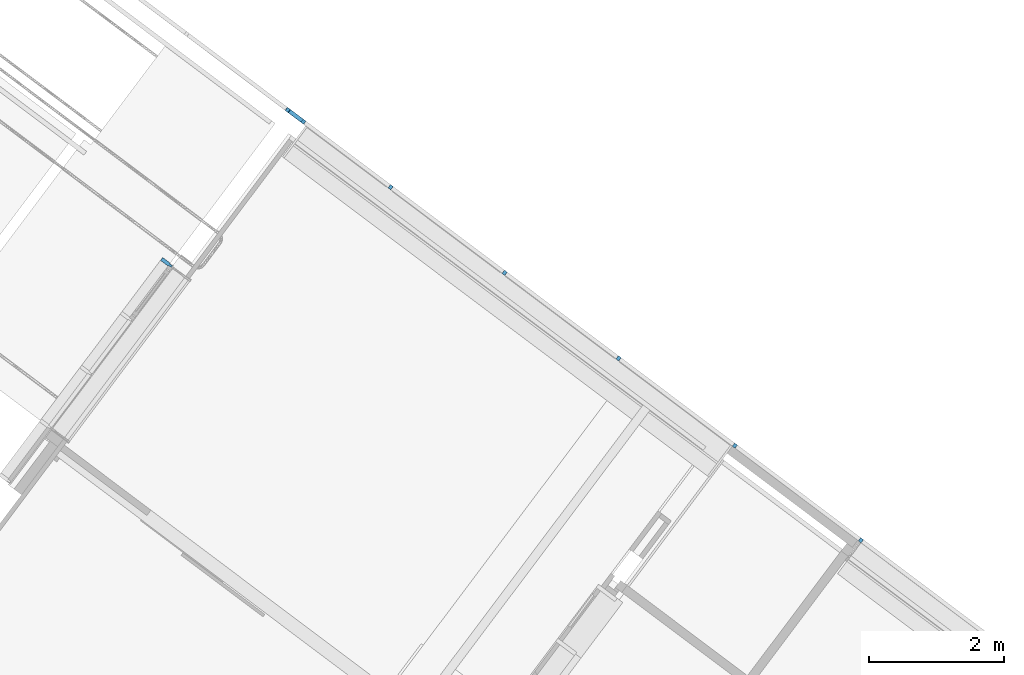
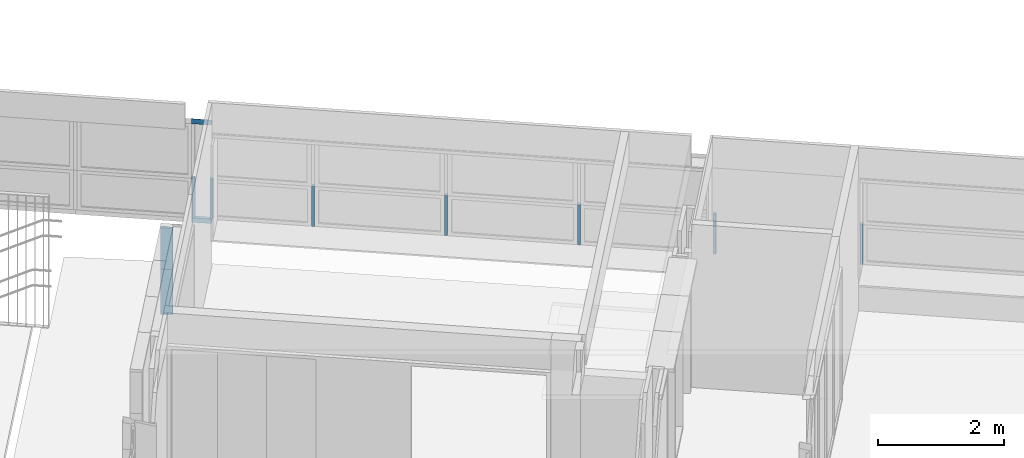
# One storey, part 90 of 243: 12 members, 3 elements without a shape of their own.
"""IFC2X3 building model written with IfcOpenShell, lengths in metres."""

from ifc_helpers import new_model, entity, si_unit, converted_unit, derived_unit, direction, frame, frame_2d, origin, origin_2d_with_axis, place, context, subcontext, project, spatial, polyline, rectangle, outline, extrude, source, transform, mapped, material, type_object, type_shapes, element, aggregate, save


model = new_model("IFC2X3")

# Units and contexts
model_context = context("Model", 3, precision=1e-05, world=origin(), true_north=direction((6.123031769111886e-17, 1.0)))
body_context = subcontext(model_context, "Body", "Model", "MODEL_VIEW")
ifc_project = project(units=[si_unit("LENGTHUNIT", "METRE"), si_unit("AREAUNIT", "SQUARE_METRE"), si_unit("VOLUMEUNIT", "CUBIC_METRE"), converted_unit("PLANEANGLEUNIT", "DEGREE", entity("IfcRatioMeasure", 0.017453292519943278), si_unit("PLANEANGLEUNIT", "RADIAN"), dimensions=[0, 0, 0, 0, 0, 0, 0]), si_unit("MASSUNIT", "GRAM", prefix="KILO"), derived_unit("MASSDENSITYUNIT", [(si_unit("MASSUNIT", "GRAM", prefix="KILO"), 1), (si_unit("LENGTHUNIT", "METRE"), -3)]), derived_unit("IONCONCENTRATIONUNIT", [(si_unit("MASSUNIT", "GRAM", prefix="KILO"), 1), (si_unit("LENGTHUNIT", "METRE"), -3)]), derived_unit("MOMENTOFINERTIAUNIT", [(si_unit("LENGTHUNIT", "METRE"), 4)]), si_unit("TIMEUNIT", "SECOND"), si_unit("FREQUENCYUNIT", "HERTZ"), si_unit("THERMODYNAMICTEMPERATUREUNIT", "DEGREE_CELSIUS"), derived_unit("THERMALTRANSMITTANCEUNIT", [(si_unit("MASSUNIT", "GRAM", prefix="KILO"), 1), (si_unit("THERMODYNAMICTEMPERATUREUNIT", "KELVIN"), -1), (si_unit("TIMEUNIT", "SECOND"), -3)]), derived_unit("THERMALCONDUCTANCEUNIT", [(si_unit("MASSUNIT", "GRAM", prefix="KILO"), 1), (si_unit("THERMODYNAMICTEMPERATUREUNIT", "KELVIN"), -1), (si_unit("TIMEUNIT", "SECOND"), -3), (si_unit("LENGTHUNIT", "METRE"), 1)]), derived_unit("VOLUMETRICFLOWRATEUNIT", [(si_unit("LENGTHUNIT", "METRE"), 3), (si_unit("TIMEUNIT", "SECOND"), -1)]), derived_unit("MASSFLOWRATEUNIT", [(si_unit("MASSUNIT", "GRAM", prefix="KILO"), 1), (si_unit("TIMEUNIT", "SECOND"), -1)]), derived_unit("ROTATIONALFREQUENCYUNIT", [(si_unit("TIMEUNIT", "SECOND"), -1)]), si_unit("ELECTRICCURRENTUNIT", "AMPERE"), si_unit("ELECTRICVOLTAGEUNIT", "VOLT"), si_unit("POWERUNIT", "WATT"), si_unit("FORCEUNIT", "NEWTON", prefix="KILO"), si_unit("ILLUMINANCEUNIT", "LUX"), si_unit("LUMINOUSFLUXUNIT", "LUMEN"), si_unit("LUMINOUSINTENSITYUNIT", "CANDELA"), derived_unit("USERDEFINED", [(si_unit("MASSUNIT", "GRAM", prefix="KILO"), -1), (si_unit("LENGTHUNIT", "METRE"), -2), (si_unit("TIMEUNIT", "SECOND"), 3), (si_unit("LUMINOUSFLUXUNIT", "LUMEN"), 1)]), derived_unit("USERDEFINED", [(si_unit("MASSUNIT", "GRAM", prefix="KILO"), 1), (si_unit("TIMEUNIT", "SECOND"), -3), (si_unit("LENGTHUNIT", "METRE"), 3), (si_unit("ELECTRICCURRENTUNIT", "AMPERE"), -2)]), derived_unit("SOUNDPOWERUNIT", [(si_unit("MASSUNIT", "GRAM", prefix="KILO"), 1), (si_unit("TIMEUNIT", "SECOND"), -3), (si_unit("LENGTHUNIT", "METRE"), 2)]), derived_unit("SOUNDPRESSUREUNIT", [(si_unit("MASSUNIT", "GRAM", prefix="KILO"), 1), (si_unit("LENGTHUNIT", "METRE"), -1), (si_unit("TIMEUNIT", "SECOND"), -2)]), derived_unit("LINEARVELOCITYUNIT", [(si_unit("LENGTHUNIT", "METRE"), 1), (si_unit("TIMEUNIT", "SECOND"), -1)]), si_unit("PRESSUREUNIT", "PASCAL"), derived_unit("USERDEFINED", [(si_unit("MASSUNIT", "GRAM", prefix="KILO"), 1), (si_unit("LENGTHUNIT", "METRE"), -2), (si_unit("TIMEUNIT", "SECOND"), -2)]), derived_unit("LINEARFORCEUNIT", [(si_unit("MASSUNIT", "GRAM", prefix="KILO"), 1), (si_unit("TIMEUNIT", "SECOND"), -2)]), derived_unit("PLANARFORCEUNIT", [(si_unit("MASSUNIT", "GRAM", prefix="KILO"), 1), (si_unit("LENGTHUNIT", "METRE"), -1), (si_unit("TIMEUNIT", "SECOND"), -2)]), derived_unit("SPECIFICHEATCAPACITYUNIT", [(si_unit("THERMODYNAMICTEMPERATUREUNIT", "KELVIN"), -1), (si_unit("LENGTHUNIT", "METRE"), 2), (si_unit("TIMEUNIT", "SECOND"), -2)]), derived_unit("HEATINGVALUEUNIT", [(si_unit("LENGTHUNIT", "METRE"), 2), (si_unit("TIMEUNIT", "SECOND"), -2)]), derived_unit("VAPORPERMEABILITYUNIT", [(si_unit("LENGTHUNIT", "METRE"), -1), (si_unit("TIMEUNIT", "SECOND"), 1)]), derived_unit("DYNAMICVISCOSITYUNIT", [(si_unit("MASSUNIT", "GRAM", prefix="KILO"), 1), (si_unit("TIMEUNIT", "SECOND"), -1), (si_unit("LENGTHUNIT", "METRE"), -1)]), derived_unit("THERMALEXPANSIONCOEFFICIENTUNIT", [(si_unit("THERMODYNAMICTEMPERATUREUNIT", "KELVIN"), -1)]), derived_unit("MODULUSOFELASTICITYUNIT", [(si_unit("MASSUNIT", "GRAM", prefix="KILO"), 1), (si_unit("LENGTHUNIT", "METRE"), -1), (si_unit("TIMEUNIT", "SECOND"), -2)]), derived_unit("ISOTHERMALMOISTURECAPACITYUNIT", [(si_unit("LENGTHUNIT", "METRE"), 3), (si_unit("MASSUNIT", "GRAM", prefix="KILO"), -1)]), derived_unit("MOISTUREDIFFUSIVITYUNIT", [(si_unit("TIMEUNIT", "SECOND"), -1), (si_unit("LENGTHUNIT", "METRE"), 2)])], contexts=[model_context])

# Site, building, storey
site_placement = place(None, frame((0.0, 0.0, 235.0), z_axis=(0.0, 0.0, 1.0), x_axis=(-0.7996477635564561, 0.6004693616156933, 0.0)))
site = spatial("IfcSite", under=ifc_project, at=site_placement, Name="Default", CompositionType="ELEMENT")
building_placement = place(site_placement, origin())
building = spatial("IfcBuilding", under=site, at=building_placement, CompositionType="ELEMENT")
storey_placement = place(building_placement, origin())
storey = spatial("IfcBuildingStorey", under=building, at=storey_placement, Name="P0- Escola", CompositionType="ELEMENT", Elevation=0.0)

# Curtain wall, members
curtain_wall_type_1 = type_object("IfcCurtainWallType", Name="Muro cortina:MC- EXT- MC2", PredefinedType="NOTDEFINED")
curtain_wall_1_placement = place(storey_placement, origin())
curtain_wall_1 = element("IfcCurtainWall", 1, at=curtain_wall_1_placement, inside=storey, type_object=curtain_wall_type_1, Name="Muro cortina:MC- EXT- MC2", ObjectType="Muro cortina:MC- EXT- MC2")
ifc_material = material(Name="_Alumini- T1- Perfil")
member_type_1 = type_object("IfcMemberType", Name="Montante rectangular:MC- Alu- 140x52,5 cm- Fa patis- Centre", PredefinedType="MULLION", material=ifc_material)
shared_shape_1 = source(origin(), body_context, "Body", "SweptSolid", [
    extrude(outline(polyline([(-0.021999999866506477, -0.026250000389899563), (0.11699999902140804, -0.026250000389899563), (0.11699999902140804, 0.026250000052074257), (-0.02200000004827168, 0.026250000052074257), (-0.02200000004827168, 0.015000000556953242), (-0.07299999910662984, 0.015000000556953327), (-0.07299999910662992, -0.015000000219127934), (-0.021999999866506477, -0.015000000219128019), (-0.021999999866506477, -0.026250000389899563)])), frame((-0.026250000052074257, -0.022999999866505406, -0.8750000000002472), z_axis=(0.0, 0.0, 1.0), x_axis=(0.0, -1.0, 0.0)), (0.0, 0.0, 1.0), 0.8750000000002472),
])
type_shapes(member_type_1, [shared_shape_1])
member_1_placement = place(curtain_wall_1_placement, frame((23.945147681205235, -39.441441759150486, 0.8200000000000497), z_axis=(0.0, 0.0, -1.0), x_axis=(0.0, -1.0, 0.0)))
member_1 = element("IfcMember", 2, at=member_1_placement, type_object=member_type_1, material=ifc_material, Name="Montante rectangular:MC- Alu- 140x52,5 cm- Fa patis- Centre", ObjectType="Montante rectangular:MC- Alu- 140x52,5 cm- Fa patis- Centre", context=body_context, shape_type="MappedRepresentation", body=[
    mapped(shared_shape_1, transform((0.0, 0.0, 0.0), scale=1.0)),
])
member_type_2 = type_object("IfcMemberType", Name="Montante rectangular:MC- Alu- 140x52,5 cm- Fa patis- Centre", PredefinedType="MULLION", material=ifc_material)
shared_shape_2 = source(origin(), body_context, "Body", "SweptSolid", [
    extrude(outline(polyline([(-0.021999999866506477, -0.026250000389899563), (0.11699999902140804, -0.026250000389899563), (0.11699999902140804, 0.026250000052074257), (-0.02200000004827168, 0.026250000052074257), (-0.02200000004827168, 0.015000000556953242), (-0.07299999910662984, 0.015000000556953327), (-0.07299999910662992, -0.015000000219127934), (-0.021999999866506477, -0.015000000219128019), (-0.021999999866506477, -0.026250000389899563)])), frame((-0.026250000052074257, -0.022999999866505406, -0.7974999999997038), z_axis=(0.0, 0.0, 1.0), x_axis=(0.0, -1.0, 0.0)), (0.0, 0.0, 1.0), 0.7974999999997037),
])
type_shapes(member_type_2, [shared_shape_2])
member_2_placement = place(curtain_wall_1_placement, frame((23.945147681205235, -39.441441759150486, 1.6950000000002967), z_axis=(0.0, 0.0, -1.0), x_axis=(0.0, -1.0, 0.0)))
member_2 = element("IfcMember", 3, at=member_2_placement, type_object=member_type_2, material=ifc_material, Name="Montante rectangular:MC- Alu- 140x52,5 cm- Fa patis- Centre", ObjectType="Montante rectangular:MC- Alu- 140x52,5 cm- Fa patis- Centre", context=body_context, shape_type="MappedRepresentation", body=[
    mapped(shared_shape_2, transform((0.0, 0.0, 0.0), scale=1.0)),
])
aggregate(curtain_wall_1, [member_1, member_2])

curtain_wall_type_2 = type_object("IfcCurtainWallType", Name="Muro cortina:MC- EXT- MC6", PredefinedType="NOTDEFINED")
curtain_wall_2_placement = place(storey_placement, origin())
curtain_wall_2 = element("IfcCurtainWall", 4, at=curtain_wall_2_placement, inside=storey, type_object=curtain_wall_type_2, Name="Muro cortina:MC- EXT- MC6", ObjectType="Muro cortina:MC- EXT- MC6")
member_type_3 = type_object("IfcMemberType", Name="Montante rectangular:MC- Alu- 50x60 cm- Fa pista- Centre", PredefinedType="MULLION", material=ifc_material)
shared_shape_3 = source(origin(), body_context, "Body", "SweptSolid", [
    extrude(rectangle(XDim=0.06000000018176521, YDim=0.05, at=frame_2d((3.469446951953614e-18, 0.0), x_axis=(1.0, 0.0))), frame((-0.025, -0.030000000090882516, -0.77), z_axis=(0.0, 0.0, 1.0), x_axis=(0.0, -1.0, 0.0)), (0.0, 0.0, 1.0), 0.77),
])
type_shapes(member_type_3, [shared_shape_3])
member_3_placement = place(curtain_wall_2_placement, frame((23.945147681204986, -42.34019175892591, 0.685), z_axis=(0.0, 0.0, -1.0), x_axis=(1.0, 0.0, 0.0)))
member_3 = element("IfcMember", 5, at=member_3_placement, type_object=member_type_3, material=ifc_material, Name="Montante rectangular:MC- Alu- 50x60 cm- Fa pista- Centre", ObjectType="Montante rectangular:MC- Alu- 50x60 cm- Fa pista- Centre", context=body_context, shape_type="MappedRepresentation", body=[
    mapped(shared_shape_3, transform((0.0, 0.0, 0.0), scale=1.0)),
])
member_type_4 = type_object("IfcMemberType", Name="Montante rectangular:MC- Alu- 50x60 cm- Fa pista- Centre", PredefinedType="MULLION", material=ifc_material)
shared_shape_4 = source(origin(), body_context, "Body", "SweptSolid", [
    extrude(rectangle(XDim=0.0600000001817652, YDim=0.05, at=frame_2d((8.673617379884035e-18, 0.0), x_axis=(1.0, 0.0))), frame((0.0, -0.030000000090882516, -0.77), z_axis=(0.0, 0.0, 1.0), x_axis=(0.0, -1.0, 0.0)), (0.0, 0.0, 1.0), 0.77),
])
type_shapes(member_type_4, [shared_shape_4])
member_4_placement = place(curtain_wall_2_placement, frame((22.005147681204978, -42.3401917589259, 0.685), z_axis=(0.0, 0.0, -1.0), x_axis=(1.0, 0.0, 0.0)))
member_4 = element("IfcMember", 6, at=member_4_placement, type_object=member_type_4, material=ifc_material, Name="Montante rectangular:MC- Alu- 50x60 cm- Fa pista- Centre", ObjectType="Montante rectangular:MC- Alu- 50x60 cm- Fa pista- Centre", context=body_context, shape_type="MappedRepresentation", body=[
    mapped(shared_shape_4, transform((0.0, 0.0, 0.0), scale=1.0)),
])
member_5_placement = place(curtain_wall_2_placement, frame((19.888147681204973, -42.3401917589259, 0.685), z_axis=(0.0, 0.0, -1.0), x_axis=(1.0, 0.0, 0.0)))
member_5 = element("IfcMember", 7, at=member_5_placement, type_object=member_type_4, material=ifc_material, Name="Montante rectangular:MC- Alu- 50x60 cm- Fa pista- Centre", ObjectType="Montante rectangular:MC- Alu- 50x60 cm- Fa pista- Centre", context=body_context, shape_type="MappedRepresentation", body=[
    mapped(shared_shape_4, transform((0.0, 0.0, 0.0), scale=1.0)),
])
member_6_placement = place(curtain_wall_2_placement, frame((17.77114768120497, -42.34019175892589, 0.685), z_axis=(0.0, 0.0, -1.0), x_axis=(1.0, 0.0, 0.0)))
member_6 = element("IfcMember", 8, at=member_6_placement, type_object=member_type_4, material=ifc_material, Name="Montante rectangular:MC- Alu- 50x60 cm- Fa pista- Centre", ObjectType="Montante rectangular:MC- Alu- 50x60 cm- Fa pista- Centre", context=body_context, shape_type="MappedRepresentation", body=[
    mapped(shared_shape_4, transform((0.0, 0.0, 0.0), scale=1.0)),
])
member_7_placement = place(curtain_wall_2_placement, frame((15.611792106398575, -42.34019175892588, 0.685), z_axis=(0.0, 0.0, -1.0), x_axis=(1.0, 0.0, 0.0)))
member_7 = element("IfcMember", 9, at=member_7_placement, type_object=member_type_4, material=ifc_material, Name="Montante rectangular:MC- Alu- 50x60 cm- Fa pista- Centre", ObjectType="Montante rectangular:MC- Alu- 50x60 cm- Fa pista- Centre", context=body_context, shape_type="MappedRepresentation", body=[
    mapped(shared_shape_4, transform((0.0, 0.0, 0.0), scale=1.0)),
])
member_8_placement = place(curtain_wall_2_placement, frame((13.271429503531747, -42.340191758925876, 0.685), z_axis=(0.0, 0.0, -1.0), x_axis=(1.0, 0.0, 0.0)))
member_8 = element("IfcMember", 10, at=member_8_placement, type_object=member_type_4, material=ifc_material, Name="Montante rectangular:MC- Alu- 50x60 cm- Fa pista- Centre", ObjectType="Montante rectangular:MC- Alu- 50x60 cm- Fa pista- Centre", context=body_context, shape_type="MappedRepresentation", body=[
    mapped(shared_shape_4, transform((0.0, 0.0, 0.0), scale=1.0)),
])
member_9_placement = place(curtain_wall_2_placement, frame((23.625147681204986, -42.34019175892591, 0.685), z_axis=(0.0, 0.0, -1.0), x_axis=(1.0, 0.0, 0.0)))
member_9 = element("IfcMember", 11, at=member_9_placement, type_object=member_type_4, material=ifc_material, Name="Montante rectangular:MC- Alu- 50x60 cm- Fa pista- Centre", ObjectType="Montante rectangular:MC- Alu- 50x60 cm- Fa pista- Centre", context=body_context, shape_type="MappedRepresentation", body=[
    mapped(shared_shape_4, transform((0.0, 0.0, 0.0), scale=1.0)),
])
member_type_5 = type_object("IfcMemberType", Name="Montante rectangular:MC- Alu- 140x52,5 cm- Fa pista- Superior", PredefinedType="MULLION", material=ifc_material)
shared_shape_5 = source(origin(), body_context, "Body", "SweptSolid", [
    extrude(outline(polyline([(-0.03933333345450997, -0.04916666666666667), (0.02066666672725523, -0.04916666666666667), (0.020666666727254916, 0.048333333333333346), (0.018666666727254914, 0.04833333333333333), (0.018666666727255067, 0.00083333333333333), (-0.03933333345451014, 0.00083333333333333), (-0.03933333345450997, -0.04916666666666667)])), frame((-0.048333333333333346, -0.03933333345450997, -0.3200000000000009), z_axis=(0.0, 0.0, 1.0), x_axis=(0.0, -1.0, 0.0)), (0.0, 0.0, 1.0), 0.3200000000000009),
])
type_shapes(member_type_5, [shared_shape_5])
member_10_placement = place(curtain_wall_2_placement, frame((23.945147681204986, -42.34019175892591, 2.6000000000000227), z_axis=(1.0, 0.0, 0.0), x_axis=(0.0, 0.0, 1.0)))
member_10 = element("IfcMember", 12, at=member_10_placement, type_object=member_type_5, material=ifc_material, Name="Montante rectangular:MC- Alu- 140x52,5 cm- Fa pista- Superior", ObjectType="Montante rectangular:MC- Alu- 140x52,5 cm- Fa pista- Superior", context=body_context, shape_type="MappedRepresentation", body=[
    mapped(shared_shape_5, transform((0.0, 0.0, 0.0), scale=1.0)),
])
member_type_6 = type_object("IfcMemberType", Name="Montante rectangular:MC- Alu- 52x80 cm- Fa pista- inferior", PredefinedType="MULLION", material=ifc_material)
shared_shape_6 = source(origin(), body_context, "Body", "SweptSolid", [
    extrude(rectangle(XDim=0.06000000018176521, YDim=0.085, at=origin_2d_with_axis()), frame((-0.0425, -0.030000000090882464, -0.3200000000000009), z_axis=(0.0, 0.0, 1.0), x_axis=(0.0, -1.0, 0.0)), (0.0, 0.0, 1.0), 0.3200000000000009),
])
type_shapes(member_type_6, [shared_shape_6])
member_11_placement = place(curtain_wall_2_placement, frame((23.625147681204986, -42.34019175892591, 0.6000000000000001), z_axis=(-1.0, 0.0, 0.0), x_axis=(0.0, 0.0, -1.0)))
member_11 = element("IfcMember", 13, at=member_11_placement, type_object=member_type_6, material=ifc_material, Name="Montante rectangular:MC- Alu- 52x80 cm- Fa pista- inferior", ObjectType="Montante rectangular:MC- Alu- 52x80 cm- Fa pista- inferior", context=body_context, shape_type="MappedRepresentation", body=[
    mapped(shared_shape_6, transform((0.0, 0.0, 0.0), scale=1.0)),
])
aggregate(curtain_wall_2, [member_10, member_3, member_4, member_5, member_6, member_7, member_8, member_11, member_9])

# Curtain wall, member
curtain_wall_type_3 = type_object("IfcCurtainWallType", Name="Muro cortina:MC- EXT- MC9", PredefinedType="NOTDEFINED")
curtain_wall_3_placement = place(storey_placement, origin())
curtain_wall_3 = element("IfcCurtainWall", 14, at=curtain_wall_3_placement, inside=storey, type_object=curtain_wall_type_3, Name="Muro cortina:MC- EXT- MC9", ObjectType="Muro cortina:MC- EXT- MC9")
member_type_7 = type_object("IfcMemberType", Name="Montante rectangular:MC- Alu- 50x60 cm- Fa pista- Centre", PredefinedType="MULLION", material=ifc_material)
shared_shape_7 = source(origin(), body_context, "Body", "SweptSolid", [
    extrude(rectangle(XDim=0.0600000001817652, YDim=0.05, at=origin_2d_with_axis()), frame((-0.025, -0.030000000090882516, -0.7650000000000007), z_axis=(0.0, 0.0, 1.0), x_axis=(0.0, -1.0, 0.0)), (0.0, 0.0, 1.0), 0.7650000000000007),
])
type_shapes(member_type_7, [shared_shape_7])
member_12_placement = place(curtain_wall_3_placement, frame((23.885147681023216, -42.3401917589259, 1.4500000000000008), z_axis=(0.0, 0.0, 1.0), x_axis=(-1.0, 0.0, 0.0)))
member_12 = element("IfcMember", 15, at=member_12_placement, type_object=member_type_7, material=ifc_material, Name="Montante rectangular:MC- Alu- 50x60 cm- Fa pista- Centre", ObjectType="Montante rectangular:MC- Alu- 50x60 cm- Fa pista- Centre", context=body_context, shape_type="MappedRepresentation", body=[
    mapped(shared_shape_7, transform((0.0, 0.0, 0.0), scale=1.0)),
])
aggregate(curtain_wall_3, [member_12])

save(model, "model.ifc")
